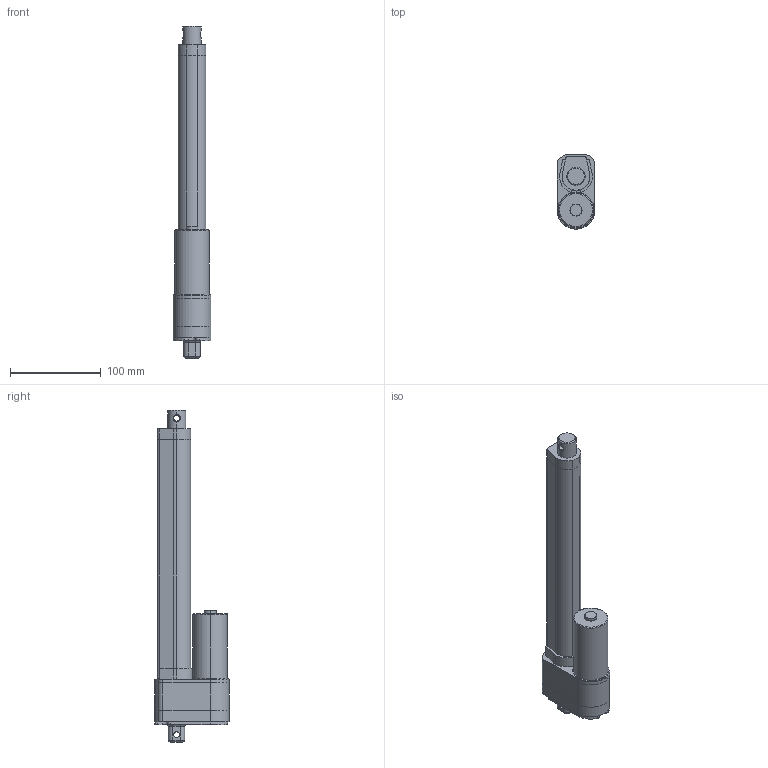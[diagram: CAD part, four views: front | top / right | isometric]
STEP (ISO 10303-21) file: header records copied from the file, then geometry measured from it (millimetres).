
FILE_DESCRIPTION (( 'STEP AP203' ), '1' );
FILE_NAME ('la3200p.step', '2015-06-16T03:58:17', ( 'development' ), ( '' ), 'SwSTEP 2.0', 'SolidWorks 2015', '' );
FILE_SCHEMA (( 'CONFIG_CONTROL_DESIGN' ));
Length unit declared in the file: millimetre
Products named in the file (1): la3200p
Bounding box: 41.55 x 81.55 x 365 mm (x, y, z)
Surface area: 70996 mm2 (no closed solid volume)
Topology: 0 solids, 6 shells, 160 faces, 439 edges, 288 vertices
Faces by surface type: cylinder 82, plane 58, torus 14, bspline 4, cone 2
Entity records: 5588 total; most frequent: CARTESIAN_POINT 1384, DIRECTION 938, ORIENTED_EDGE 776, EDGE_CURVE 439, AXIS2_PLACEMENT_3D 354, VERTEX_POINT 288, VECTOR 230, LINE 230
